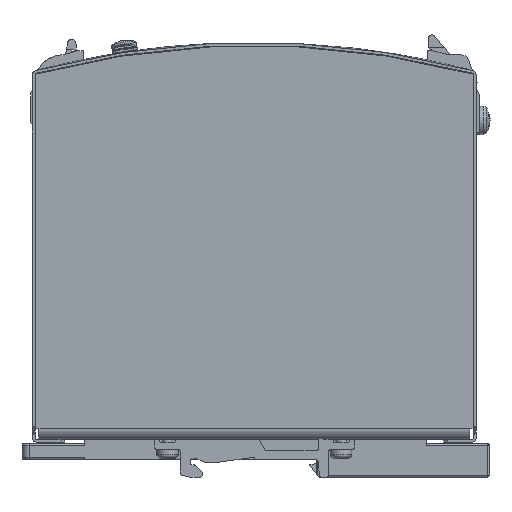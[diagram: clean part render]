
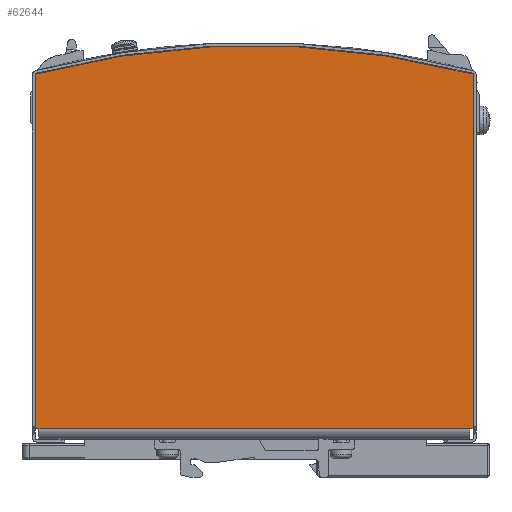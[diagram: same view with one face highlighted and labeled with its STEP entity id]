
A CAD part, front view. The second image highlights one B-rep face of the part: STEP entity #62644.
In plain terms, the highlighted planar face has unit normal (0, -1, 0).
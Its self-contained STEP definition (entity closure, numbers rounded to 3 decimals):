
#1467=CIRCLE('',#65963,240.);
#8322=LINE('',#179462,#15523);
#8331=LINE('',#179490,#15532);
#8339=LINE('',#179501,#15540);
#8341=LINE('',#179505,#15542);
#8343=LINE('',#179508,#15544);
#15523=VECTOR('',#77828,10.);
#15532=VECTOR('',#77851,10.);
#15540=VECTOR('',#77865,10.);
#15542=VECTOR('',#77871,10.);
#15544=VECTOR('',#77875,10.);
#18714=PLANE('',#65991);
#21589=FACE_OUTER_BOUND('',#25634,.T.);
#25634=EDGE_LOOP('',(#56534,#56535,#56536,#56537,#56538,#56539));
#32091=VERTEX_POINT('',#179420);
#32092=VERTEX_POINT('',#179422);
#32098=VERTEX_POINT('',#179436);
#32108=VERTEX_POINT('',#179460);
#32109=VERTEX_POINT('',#179464);
#32120=VERTEX_POINT('',#179489);
#40397=EDGE_CURVE('',#32092,#32091,#1467,.T.);
#40416=EDGE_CURVE('',#32108,#32098,#8322,.T.);
#40429=EDGE_CURVE('',#32109,#32120,#8331,.T.);
#40437=EDGE_CURVE('',#32108,#32092,#8339,.T.);
#40439=EDGE_CURVE('',#32098,#32109,#8341,.T.);
#40441=EDGE_CURVE('',#32091,#32120,#8343,.T.);
#56534=ORIENTED_EDGE('',*,*,#40397,.T.);
#56535=ORIENTED_EDGE('',*,*,#40441,.T.);
#56536=ORIENTED_EDGE('',*,*,#40429,.F.);
#56537=ORIENTED_EDGE('',*,*,#40439,.F.);
#56538=ORIENTED_EDGE('',*,*,#40416,.F.);
#56539=ORIENTED_EDGE('',*,*,#40437,.T.);
#62644=ADVANCED_FACE('',(#21589),#18714,.T.);
#65963=AXIS2_PLACEMENT_3D('',#179423,#77794,#77795);
#65991=AXIS2_PLACEMENT_3D('',#179517,#77888,#77889);
#77794=DIRECTION('center_axis',(0.,-1.,0.));
#77795=DIRECTION('ref_axis',(-0.967,0.,0.255));
#77828=DIRECTION('',(0.,0.,1.));
#77851=DIRECTION('',(0.,0.,1.));
#77865=DIRECTION('',(1.,0.,0.));
#77871=DIRECTION('',(0.,0.,1.));
#77875=DIRECTION('',(-1.,0.,0.));
#77888=DIRECTION('center_axis',(0.,-1.,0.));
#77889=DIRECTION('ref_axis',(0.,0.,-1.));
#179420=CARTESIAN_POINT('',(102.079,-30.,61.15));
#179422=CARTESIAN_POINT('',(102.079,-30.,-61.15));
#179423=CARTESIAN_POINT('Origin',(-130.,-30.,0.));
#179436=CARTESIAN_POINT('',(3.,-30.,-60.15));
#179460=CARTESIAN_POINT('',(3.,-30.,-61.15));
#179462=CARTESIAN_POINT('',(3.,-30.,0.));
#179464=CARTESIAN_POINT('',(3.,-30.,60.15));
#179489=CARTESIAN_POINT('',(3.,-30.,61.15));
#179490=CARTESIAN_POINT('',(3.,-30.,0.));
#179501=CARTESIAN_POINT('',(3.,-30.,-61.15));
#179505=CARTESIAN_POINT('',(3.,-30.,0.));
#179508=CARTESIAN_POINT('',(3.,-30.,61.15));
#179517=CARTESIAN_POINT('Origin',(120.,-30.,0.));
